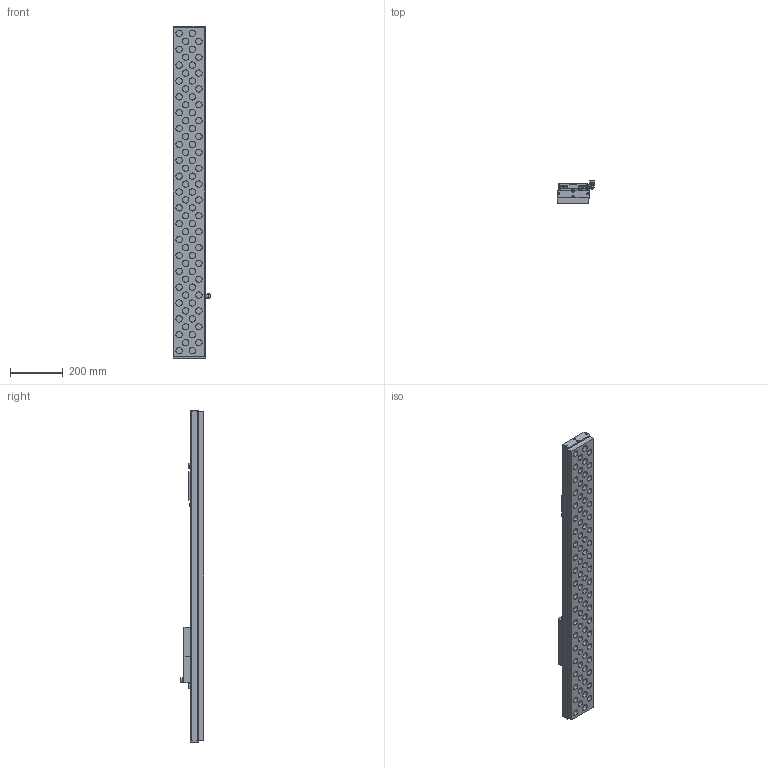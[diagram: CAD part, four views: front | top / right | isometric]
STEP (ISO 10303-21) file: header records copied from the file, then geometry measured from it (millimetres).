
FILE_DESCRIPTION (( 'STEP AP214' ), '1' );
FILE_NAME ('311 250 013.STEP', '2018-01-10T11:24:05', ( '' ), ( '' ), 'SwSTEP 2.0', 'SolidWorks 2017', '' );
FILE_SCHEMA (( 'AUTOMOTIVE_DESIGN' ));
Length unit declared in the file: millimetre
Products named in the file (1): 311 250 013
Bounding box: 142.75 x 89 x 1256 mm (x, y, z)
Volume: 7427675 mm3; surface area: 610429.2 mm2
Topology: 1 solids, 3 shells, 969 faces, 2195 edges, 1372 vertices
Faces by surface type: cylinder 452, plane 339, torus 117, cone 48, sphere 7, bspline 6
Entity records: 38387 total; most frequent: CARTESIAN_POINT 5231, DIRECTION 5201, ORIENTED_EDGE 4360, EDGE_CURVE 2180, AXIS2_PLACEMENT_3D 2137, VERTEX_POINT 1363, CIRCLE 1173, EDGE_LOOP 1115
